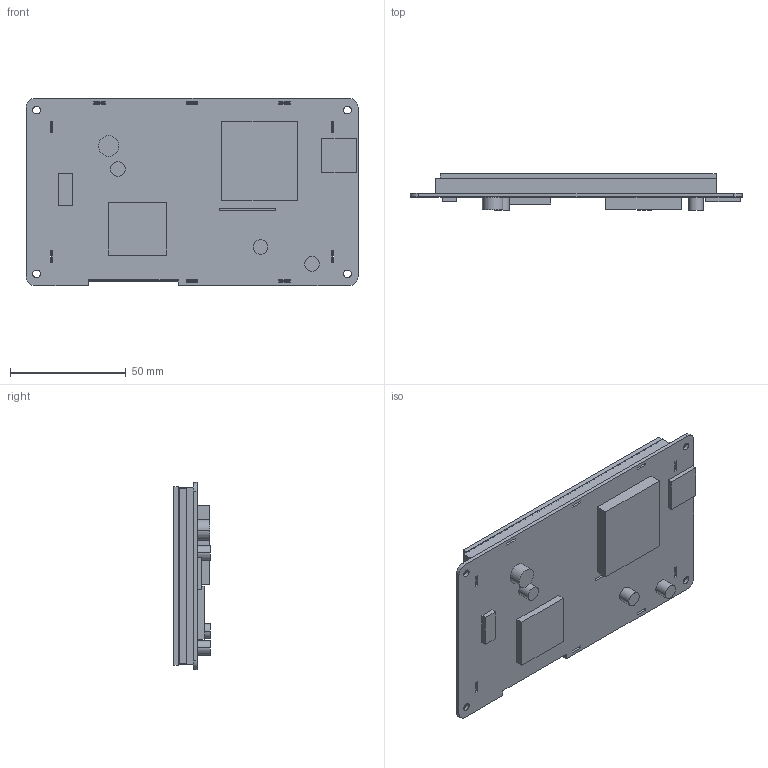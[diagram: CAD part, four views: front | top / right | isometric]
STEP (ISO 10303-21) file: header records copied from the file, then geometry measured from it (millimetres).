
FILE_DESCRIPTION((''),'2;1');
FILE_NAME('DMG80480C050_03W_ASM','2022-12-09T',('Administrator'),(''),'PRO/ENGINEER BY PARAMETRIC TECHNOLOGY CORPORATION, 2014320','PRO/ENGINEER BY PARAMETRIC TECHNOLOGY CORPORATION, 2014320','');
FILE_SCHEMA(('CONFIG_CONTROL_DESIGN','SHAPE_APPEARANCE_LAYERS_GROUPS'));
Length unit declared in the file: millimetre
Products named in the file (5): TK050002; FC50QE40-04; GME0831B; PCB; DMG80480C050_03W_ASM
Assembly tree (4 placements, depth 2):
  DMG80480C050_03W_ASM
    TK050002
    FC50QE40-04
    GME0831B
    PCB
Bounding box: 143.51 x 15.83 x 80.9 mm (x, y, z)
Volume: 72706.7 mm3; surface area: 73145.8 mm2
Topology: 4 solids, 4 shells, 269 faces, 714 edges, 476 vertices
Faces by surface type: plane 247, cylinder 22
Entity records: 8628 total; most frequent: CARTESIAN_POINT 1468, ORIENTED_EDGE 1428, DIRECTION 1314, EDGE_CURVE 714, VECTOR 670, LINE 670, VERTEX_POINT 476, AXIS2_PLACEMENT_3D 322
